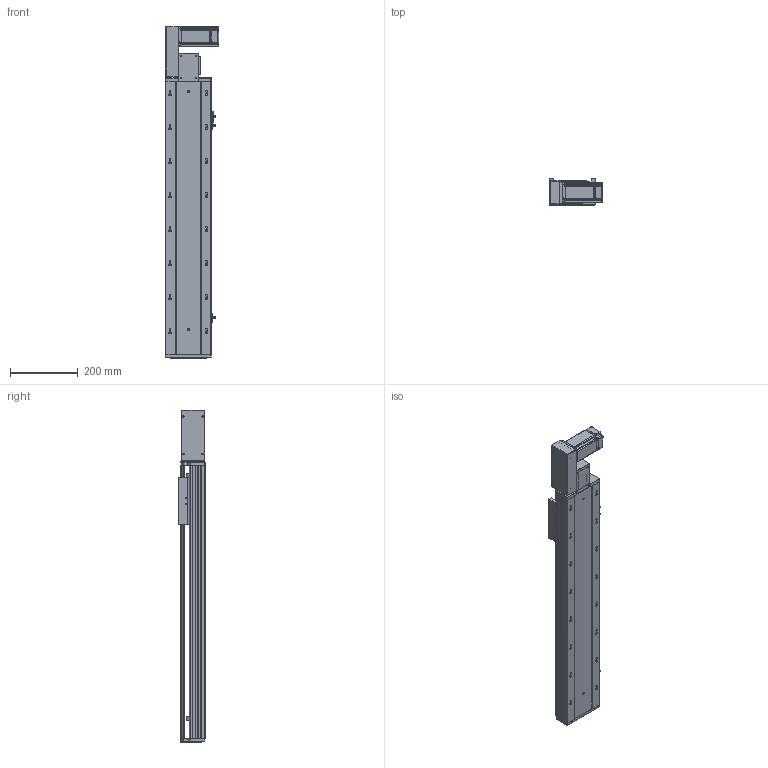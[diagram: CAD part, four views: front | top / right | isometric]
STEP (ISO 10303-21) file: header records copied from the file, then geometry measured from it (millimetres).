
FILE_DESCRIPTION (( 'STEP AP203' ), '1' );
FILE_NAME ('RY140-T-300-LK.SLDASM_550.step', '2021-03-01T06:34:55', ( '盈信电脑' ), ( '东莞市道滘镇水果街19号' ), 'SwSTEP 2.0', 'SolidWorks 2012', '' );
FILE_SCHEMA (( 'CONFIG_CONTROL_DESIGN' ));
Length unit declared in the file: millimetre
Products named in the file (18): RY140-T萇儂欶; RY120-T蹟翐M4; 滅袉蝶18-10; RY140-T翋肮謫裔啣; RY140-T萇儂假蚾啣; RY120-T主同步轮轴承压盖; 15; 侂狟400W侜督萇儂; RY140-T翋肮祭謫盓傅釱; RY120-T肮祭湍揤踡輸2; RY120-T肮祭湍揤踡輸1; RY120外置感应片(140共用）; RY140綴裔啣; 覜茼ん672; RY140-T-300-DL倰第奻裔啣_550; RY140-T-300-DL倰第菁釱_550; RY140肮祭謫臏賑輸; RY140-T-300-LK.SLDASM_550
Assembly tree (23 placements, depth 3):
  RY140-T-300-LK.SLDASM_550
    RY140-T-300-DL倰第菁釱_550
    RY140肮祭謫臏賑輸
    RY140-T-300-DL倰第奻裔啣_550
    RY140綴裔啣
    覜茼ん672  x3
    RY120外置感应片(140共用）
    RY120-T肮祭湍揤踡輸2
    RY120-T肮祭湍揤踡輸1
    RY140-T翋肮祭謫盓傅釱
    RY140-T萇儂假蚾啣
    侂狟400W侜督萇儂
      15
    RY120-T主同步轮轴承压盖
    RY120-T蹟翐M4  x4
    RY140-T萇儂欶
    滅袉蝶18-10  x2
    RY140-T翋肮謫裔啣
Bounding box: 157 x 78 x 976.5 mm (x, y, z)
Volume: 2916669.5 mm3; surface area: 1085529.7 mm2
Topology: 22 solids, 22 shells, 2623 faces, 7197 edges, 4638 vertices
Faces by surface type: plane 1381, cylinder 952, cone 190, bspline 100
Entity records: 83329 total; most frequent: CARTESIAN_POINT 20465, ORIENTED_EDGE 12938, DIRECTION 12229, EDGE_CURVE 6469, VERTEX_POINT 4237, VECTOR 4157, LINE 4157, AXIS2_PLACEMENT_3D 4036
